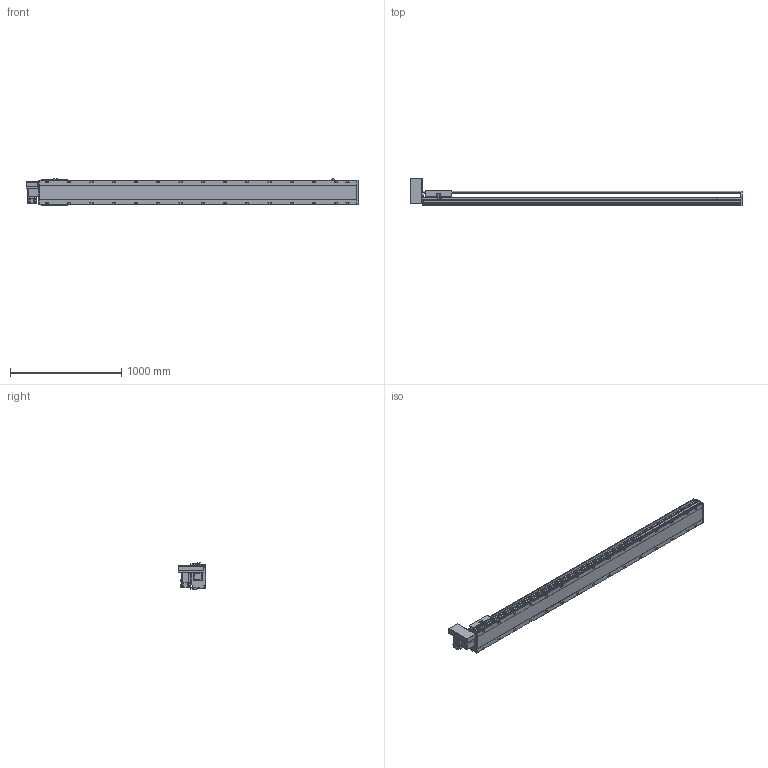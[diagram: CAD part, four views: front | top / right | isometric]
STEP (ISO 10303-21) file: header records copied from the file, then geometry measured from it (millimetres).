
FILE_DESCRIPTION(/* description */ ('STEP AP214'),/* implementation_level */ '2;1');
FILE_NAME(/* name */ 'PBS220-P40-S2500-RU-T75-C1-N(0)',/* time_stamp */ '2022-06-13T02:58:46+02:00',/* author */ ('License CC BY-ND 4.0'),/* organization */ ('CADENAS'),/* preprocessor_version */ 'ST-DEVELOPER v18.102',/* originating_system */ 'PARTsolutions',/* authorisation */ ' ');
FILE_SCHEMA (('AUTOMOTIVE_DESIGN {1 0 10303 214 3 1 1}'));
Length unit declared in the file: millimetre
Products named in the file (7): PBS220-P40-S2500-RU-T75-C1-N(0); PBS220_sensor; PBS220_plant; PBS220_sliser; T75-p1; PBS220T-RU_motors; PBS220-S2500()_body
Assembly tree (8 placements, depth 2):
  PBS220-P40-S2500-RU-T75-C1-N(0)
    PBS220_sensor  x3
    PBS220_plant
    PBS220_sliser
    T75-p1
    PBS220T-RU_motors
    PBS220-S2500()_body
Bounding box: 2984 x 247 x 238.5 mm (x, y, z)
Volume: 41655966.4 mm3; surface area: 3820200.5 mm2
Topology: 8 solids, 8 shells, 998 faces, 2592 edges, 1684 vertices
Faces by surface type: plane 626, cylinder 318, cone 54
Full cylindrical faces by diameter (mm): 2.013 x4, 4.5 x14, 4.917 x4, 6 x7, 6.647 x8, 8 x10, 8.376 x30, 8.5 x30, 10 x6, 14 x30, 38 x2, 40 x1, 70 x1
Entity records: 27813 total; most frequent: CARTESIAN_POINT 4954, DIRECTION 4833, ORIENTED_EDGE 4358, EDGE_CURVE 2179, AXIS2_PLACEMENT_3D 1737, VERTEX_POINT 1528, LINE 1359, VECTOR 1359
